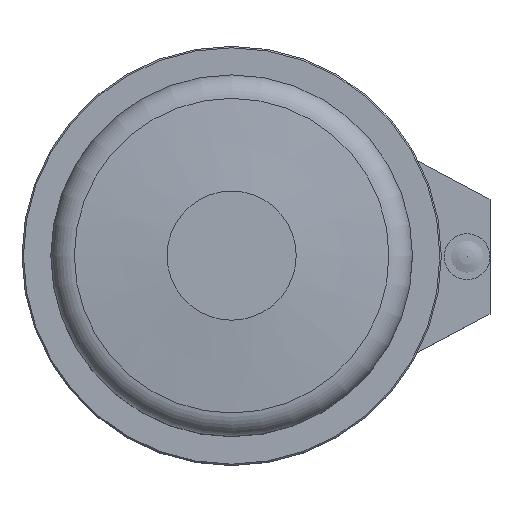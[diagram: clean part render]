
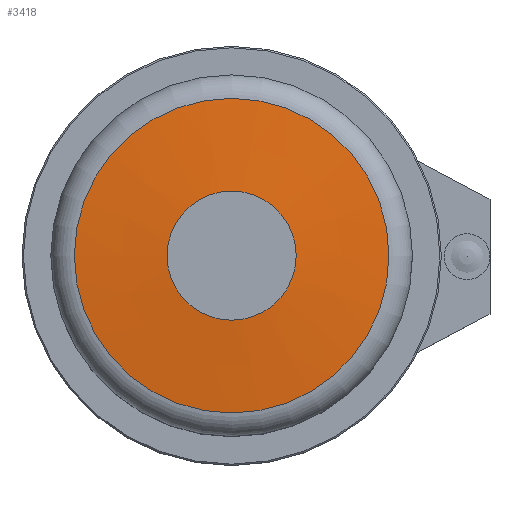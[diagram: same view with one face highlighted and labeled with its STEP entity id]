
A CAD part, top view. The second image highlights one B-rep face of the part: STEP entity #3418.
In plain terms, the highlighted conical face has half-angle 85 degrees and reference radius 27.401 mm.
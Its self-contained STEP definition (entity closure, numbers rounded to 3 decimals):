
#333=CONICAL_SURFACE('',#7805,27.401,85.);
#2742=FACE_BOUND('',#4248,.T.);
#2743=FACE_BOUND('',#4249,.T.);
#3088=CIRCLE('',#7802,11.25);
#3089=CIRCLE('',#7804,27.401);
#3418=ADVANCED_FACE('',(#2742,#2743),#333,.T.);
#4248=EDGE_LOOP('',(#5930));
#4249=EDGE_LOOP('',(#5931));
#5930=ORIENTED_EDGE('',*,*,#7061,.T.);
#5931=ORIENTED_EDGE('',*,*,#7062,.F.);
#6422=VERTEX_POINT('',#11523);
#6423=VERTEX_POINT('',#11526);
#7061=EDGE_CURVE('',#6422,#6422,#3088,.T.);
#7062=EDGE_CURVE('',#6423,#6423,#3089,.T.);
#7802=AXIS2_PLACEMENT_3D('',#11522,#9093,#9094);
#7804=AXIS2_PLACEMENT_3D('',#11525,#9097,#9098);
#7805=AXIS2_PLACEMENT_3D('',#11527,#9099,#9100);
#9093=DIRECTION('',(0.,0.,-1.));
#9094=DIRECTION('',(-1.,0.,0.));
#9097=DIRECTION('',(0.,0.,-1.));
#9098=DIRECTION('',(-1.,0.,0.));
#9099=DIRECTION('',(0.,0.,-1.));
#9100=DIRECTION('',(-1.,0.,0.));
#11522=CARTESIAN_POINT('',(0.,0.,34.));
#11523=CARTESIAN_POINT('',(-11.25,0.,34.));
#11525=CARTESIAN_POINT('',(0.,0.,32.587));
#11526=CARTESIAN_POINT('',(-27.401,0.,32.587));
#11527=CARTESIAN_POINT('',(0.,0.,32.587));
